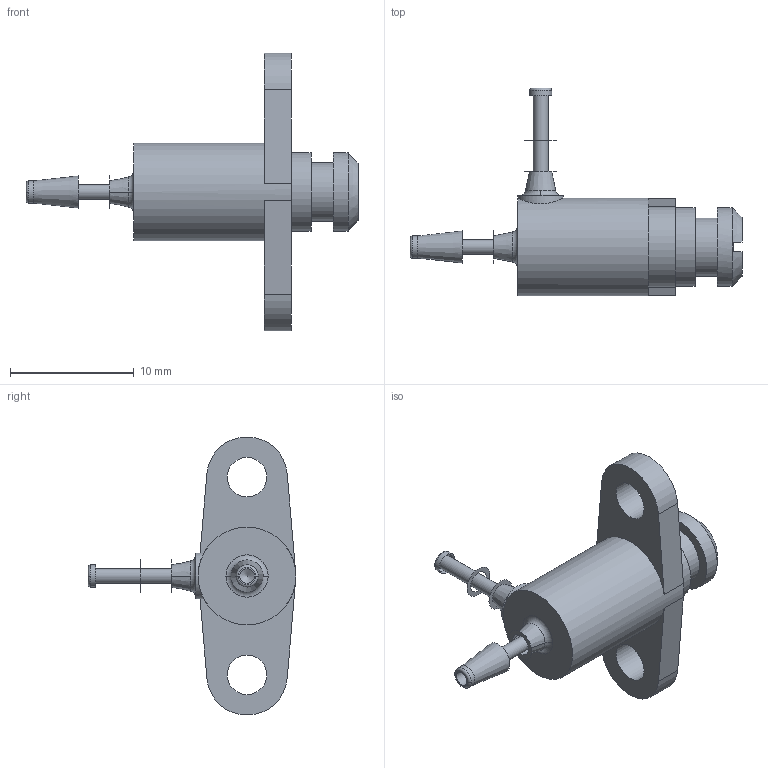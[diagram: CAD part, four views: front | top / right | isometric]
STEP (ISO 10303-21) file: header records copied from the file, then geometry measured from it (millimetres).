
FILE_DESCRIPTION(/* description */ ('SolidWorks IGES file using NURBS representation for surfaces '),/* implementation_level */ '2;1');
FILE_NAME(/* name */ 'K:\Normteile INVENTOR\Air-Logic\Needle Valves\F-2822-41-B80-E.IGS.ipt.stp',/* time_stamp */ '2020-05-27T10:42:41+02:00',/* author */ ('amarsh'),/* organization */ (''),/* preprocessor_version */ 'ST-DEVELOPER v18',/* originating_system */ 'Autodesk Inventor 2020',/* authorisation */ '');
FILE_SCHEMA (('AUTOMOTIVE_DESIGN { 1 0 10303 214 3 1 1 }'));
Length unit declared in the file: millimetre
Products named in the file (1): F-2822-41-B80-E.IGS
Bounding box: 26.87 x 16.83 x 22.5 mm (x, y, z)
Volume: 995.2 mm3; surface area: 1050.4 mm2
Topology: 2 solids, 2 shells, 55 faces, 148 edges, 105 vertices
Faces by surface type: plane 23, cylinder 13, cone 11, torus 8
Full cylindrical faces by diameter (mm): 1.2 x2, 1.8 x2, 3.2 x2, 3.7 x1, 4.7 x1, 6.35 x2, 7.92 x1
Entity records: 1888 total; most frequent: DIRECTION 352, CARTESIAN_POINT 348, ORIENTED_EDGE 292, AXIS2_PLACEMENT_3D 155, EDGE_CURVE 146, VERTEX_POINT 105, CIRCLE 99, EDGE_LOOP 69
